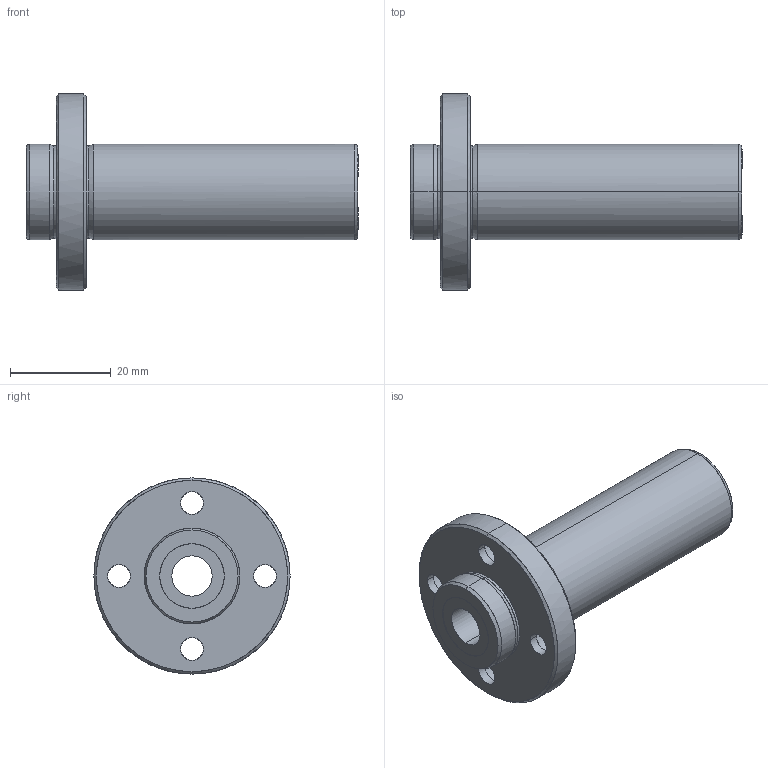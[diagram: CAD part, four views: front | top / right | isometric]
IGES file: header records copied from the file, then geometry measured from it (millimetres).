
Global section: file name: No Iges File Name specified; native system: AutoDesk Inventor R10; preprocessor: AutoDesk Inventor Iges Exporter R10; author: No Author specified; organization: No Organization specified; date: 20101211.162009; units: millimetre
Bounding box: 66 x 39 x 39 mm (x, y, z)
Surface area: 8593.3 mm2 (no closed solid volume)
Topology: 0 solids, 0 shells, 54 faces, 376 edges, 376 vertices
Faces by surface type: bspline 54
